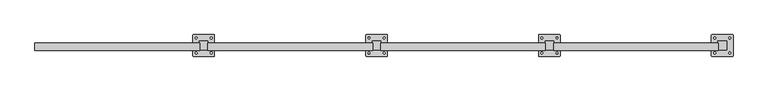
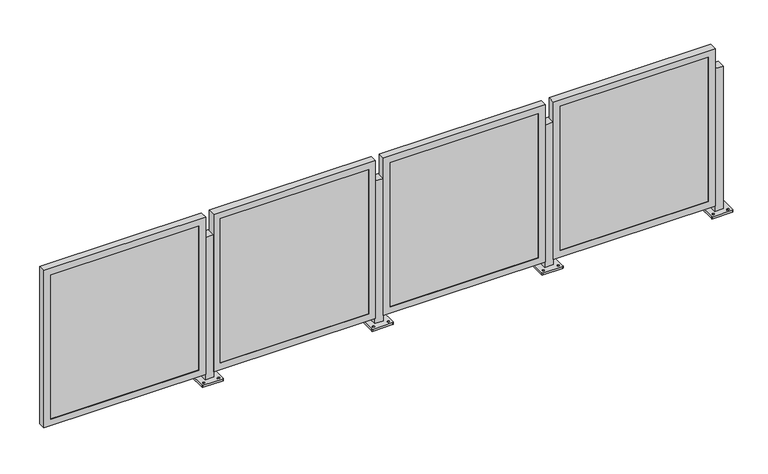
"""IFC4 building model written with IfcOpenShell, lengths in millimetres: railing geometry, Railing - Amico Architectural - Perforated Railing - Apex04."""

from ifc_helpers import new_model, si_unit, frame, origin, place, context, project, spatial, polyline, circle_curve, outline, extrude, faceted_brep, source, transform, mapped, element, save
from ifc_brep_helpers import plane_surface, cylinder_surface, revolved_surface, advanced_brep


def railing_63da7288(model_context):
    return source(origin(), model_context, "Body", "SolidModel", [
        advanced_brep(
        [(-3170.771202, 4857.370021, 914.4), (-3170.771202, 4806.570021, 914.4), (-3119.971202, 4806.570021, 914.4), (-3119.971202, 4857.370021, 914.4), (-3208.8712022, 4771.645062, 0.0), (-3208.8712022, 4892.29498, 0.0), (-3205.696174, 4895.4700081, 0.0), (-3085.04623, 4895.4700081, 0.0), (-3081.8712019, 4892.29498, 0.0), (-3081.8712019, 4771.645062, 0.0), (-3085.04623, 4768.4700339, 0.0), (-3205.696174, 4768.4700339, 0.0), (-3189.8211896, 4781.9637664, 0.0), (-3189.8211896, 4793.0762788, 0.0), (-3189.8212005, 4870.8637707, 0.0), (-3189.8212005, 4881.9762523, 0.0), (-3100.9211886, 4781.9637679, 0.0), (-3100.9211886, 4793.0762786, 0.0), (-3100.9211995, 4870.8637723, 0.0), (-3100.9211995, 4881.9762521, 0.0), (-3170.771202, 4857.370021, 12.7), (-3170.771202, 4806.570021, 12.7), (-3119.971202, 4806.570021, 12.7), (-3119.971202, 4857.370021, 12.7), (-3208.8712022, 4771.645062, 12.7), (-3205.696174, 4768.4700339, 12.7), (-3085.04623, 4768.4700339, 12.7), (-3081.8712019, 4771.645062, 12.7), (-3081.8712019, 4892.29498, 12.7), (-3085.04623, 4895.4700081, 12.7), (-3205.696174, 4895.4700081, 12.7), (-3208.8712022, 4892.29498, 12.7), (-3189.8211896, 4781.9637664, 12.7), (-3189.8211896, 4793.0762788, 12.7), (-3189.8212005, 4870.8637707, 12.7), (-3189.8212005, 4881.9762523, 12.7), (-3100.9211886, 4781.9637679, 12.7), (-3100.9211886, 4793.0762786, 12.7), (-3100.9211995, 4870.8637723, 12.7), (-3100.9211995, 4881.9762521, 12.7)],
        [
            (0, 1),
            (1, 2),
            (2, 3),
            (3, 0),
            (4, 5),
            (5, 6, circle_curve(frame((-3205.696174, 4892.29498, 0.0), z_axis=(0.0, 0.0, -1.0), x_axis=(0.0, 1.0, 0.0)), 3.1750282)),
            (6, 7),
            (7, 8, circle_curve(frame((-3085.04623, 4892.29498, 0.0), z_axis=(0.0, 0.0, -1.0), x_axis=(0.0, 1.0, 0.0)), 3.1750282)),
            (8, 9),
            (9, 10, circle_curve(frame((-3085.04623, 4771.645062, 0.0), z_axis=(0.0, 0.0, -1.0), x_axis=(0.0, 1.0, 0.0)), 3.1750282)),
            (10, 11),
            (11, 4, circle_curve(frame((-3205.696174, 4771.645062, 0.0), z_axis=(0.0, 0.0, -1.0), x_axis=(0.0, 1.0, 0.0)), 3.1750282)),
            (12, 13, circle_curve(frame((-3189.8211896, 4787.5200226, 0.0), z_axis=(0.0, 0.0, 1.0), x_axis=(0.0, 1.0, 0.0)), 5.5562562)),
            (13, 12, circle_curve(frame((-3189.8211896, 4787.5200226, 0.0), z_axis=(0.0, 0.0, 1.0), x_axis=(0.0, 1.0, 0.0)), 5.5562562)),
            (14, 15, circle_curve(frame((-3189.8212005, 4876.4200115, 0.0), z_axis=(0.0, 0.0, 1.0), x_axis=(0.0, 1.0, 0.0)), 5.5562408)),
            (15, 14, circle_curve(frame((-3189.8212005, 4876.4200115, 0.0), z_axis=(0.0, 0.0, 1.0), x_axis=(0.0, 1.0, 0.0)), 5.5562408)),
            (16, 17, circle_curve(frame((-3100.9211886, 4787.5200232, 0.0), z_axis=(0.0, 0.0, 1.0), x_axis=(0.0, 1.0, 0.0)), 5.5562553)),
            (17, 16, circle_curve(frame((-3100.9211886, 4787.5200232, 0.0), z_axis=(0.0, 0.0, 1.0), x_axis=(0.0, 1.0, 0.0)), 5.5562553)),
            (18, 19, circle_curve(frame((-3100.9211995, 4876.4200122, 0.0), z_axis=(0.0, 0.0, 1.0), x_axis=(0.0, 1.0, 0.0)), 5.5562399)),
            (19, 18, circle_curve(frame((-3100.9211995, 4876.4200122, 0.0), z_axis=(0.0, 0.0, 1.0), x_axis=(0.0, 1.0, 0.0)), 5.5562399)),
            (0, 20),
            (20, 21),
            (21, 1),
            (21, 22),
            (22, 2),
            (22, 23),
            (23, 3),
            (23, 20),
            (24, 25, circle_curve(frame((-3205.696174, 4771.645062, 12.7), z_axis=(0.0, 0.0, 1.0), x_axis=(0.0, 1.0, 0.0)), 3.1750282)),
            (25, 26),
            (26, 27, circle_curve(frame((-3085.04623, 4771.645062, 12.7), z_axis=(0.0, 0.0, 1.0), x_axis=(0.0, 1.0, 0.0)), 3.1750282)),
            (27, 28),
            (28, 29, circle_curve(frame((-3085.04623, 4892.29498, 12.7), z_axis=(0.0, 0.0, 1.0), x_axis=(0.0, 1.0, 0.0)), 3.1750282)),
            (29, 30),
            (30, 31, circle_curve(frame((-3205.696174, 4892.29498, 12.7), z_axis=(0.0, 0.0, 1.0), x_axis=(0.0, 1.0, 0.0)), 3.1750282)),
            (31, 24),
            (32, 33, circle_curve(frame((-3189.8211896, 4787.5200226, 12.7), z_axis=(0.0, 0.0, -1.0), x_axis=(0.0, 1.0, 0.0)), 5.5562562)),
            (33, 32, circle_curve(frame((-3189.8211896, 4787.5200226, 12.7), z_axis=(0.0, 0.0, -1.0), x_axis=(0.0, 1.0, 0.0)), 5.5562562)),
            (34, 35, circle_curve(frame((-3189.8212005, 4876.4200115, 12.7), z_axis=(0.0, 0.0, -1.0), x_axis=(0.0, 1.0, 0.0)), 5.5562408)),
            (35, 34, circle_curve(frame((-3189.8212005, 4876.4200115, 12.7), z_axis=(0.0, 0.0, -1.0), x_axis=(0.0, 1.0, 0.0)), 5.5562408)),
            (36, 37, circle_curve(frame((-3100.9211886, 4787.5200232, 12.7), z_axis=(0.0, 0.0, -1.0), x_axis=(0.0, 1.0, 0.0)), 5.5562553)),
            (37, 36, circle_curve(frame((-3100.9211886, 4787.5200232, 12.7), z_axis=(0.0, 0.0, -1.0), x_axis=(0.0, 1.0, 0.0)), 5.5562553)),
            (38, 39, circle_curve(frame((-3100.9211995, 4876.4200122, 12.7), z_axis=(0.0, 0.0, -1.0), x_axis=(0.0, 1.0, 0.0)), 5.5562399)),
            (39, 38, circle_curve(frame((-3100.9211995, 4876.4200122, 12.7), z_axis=(0.0, 0.0, -1.0), x_axis=(0.0, 1.0, 0.0)), 5.5562399)),
            (24, 4),
            (11, 25),
            (10, 26),
            (9, 27),
            (8, 28),
            (7, 29),
            (6, 30),
            (5, 31),
            (32, 12),
            (13, 33),
            (34, 14),
            (15, 35),
            (36, 16),
            (17, 37),
            (38, 18),
            (19, 39),
        ],
        [
            plane_surface(frame((-3170.771202, 4806.570021, 914.4), z_axis=(0.0, 0.0, 1.0), x_axis=(0.0, -1.0, 0.0))),
            plane_surface(frame((-3170.771202, 4806.570021, 0.0), z_axis=(0.0, 0.0, -1.0), x_axis=(0.0, 1.0, 0.0))),
            plane_surface(frame((-3170.771202, 4857.370021, 914.4), z_axis=(-1.0, 0.0, 0.0), x_axis=(0.0, 0.0, -1.0))),
            plane_surface(frame((-3170.771202, 4806.570021, 914.4), z_axis=(0.0, -1.0, 0.0), x_axis=(0.0, 0.0, -1.0))),
            plane_surface(frame((-3119.971202, 4806.570021, 914.4), z_axis=(1.0, 0.0, 0.0), x_axis=(0.0, 0.0, -1.0))),
            plane_surface(frame((-3119.971202, 4857.370021, 914.4), z_axis=(0.0, 1.0, 0.0), x_axis=(0.0, 0.0, -1.0))),
            plane_surface(frame((-3205.696174, 4774.8200902, 12.7), z_axis=(0.0, 0.0, 1.0), x_axis=(-1.0, 0.0, 0.0))),
            cylinder_surface(frame((-3205.696174, 4771.645062, 0.0), z_axis=(0.0, 0.0, 1.0), x_axis=(0.0, 1.0, 0.0)), 3.1750282),
            plane_surface(frame((-3205.696174, 4768.4700339, 12.7), z_axis=(1.1945386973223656e-12, -1.0, 0.0), x_axis=(0.0, 0.0, -1.0))),
            cylinder_surface(frame((-3085.04623, 4771.645062, 0.0), z_axis=(0.0, 0.0, 1.0), x_axis=(0.0, 1.0, 0.0)), 3.1750282),
            plane_surface(frame((-3081.8712019, 4771.645062, 12.7), z_axis=(1.0, 0.0, 0.0), x_axis=(0.0, 0.0, -1.0))),
            cylinder_surface(frame((-3085.04623, 4892.29498, 0.0), z_axis=(0.0, 0.0, 1.0), x_axis=(0.0, 1.0, 0.0)), 3.1750282),
            plane_surface(frame((-3085.04623, 4895.4700081, 12.7), z_axis=(-1.1946088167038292e-12, 1.0, 0.0), x_axis=(0.0, 0.0, -1.0))),
            cylinder_surface(frame((-3205.696174, 4892.29498, 0.0), z_axis=(0.0, 0.0, 1.0), x_axis=(0.0, 1.0, 0.0)), 3.1750282),
            plane_surface(frame((-3208.8712022, 4892.29498, 12.7), z_axis=(-1.0, 0.0, 0.0), x_axis=(0.0, 0.0, -1.0))),
            revolved_surface(polyline([(-3189.8211896, 4793.076278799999, 0.0), (-3189.8211896, 4793.076278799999, 12.7)]), (-3189.8211896, 4787.5200226, 0.0), (0.0, 0.0, -1.0)),
            revolved_surface(polyline([(-3189.8212005, 4881.9762523, 0.0), (-3189.8212005, 4881.9762523, 12.7)]), (-3189.8212005, 4876.4200115, 0.0), (0.0, 0.0, -1.0)),
            revolved_surface(polyline([(-3100.9211886, 4793.0762785, 0.0), (-3100.9211886, 4793.0762785, 12.7)]), (-3100.9211886, 4787.5200232, 0.0), (0.0, 0.0, -1.0)),
            revolved_surface(polyline([(-3100.9211995, 4881.9762521, 0.0), (-3100.9211995, 4881.9762521, 12.7)]), (-3100.9211995, 4876.4200122, 0.0), (0.0, 0.0, -1.0)),
        ],
        [
            (0, [[1, 2, 3, 4]]),
            (1, [[5, 6, 7, 8, 9, 10, 11, 12], [13, 14], [15, 16], [17, 18], [19, 20]]),
            (2, [[-1, 21, 22, 23]]),
            (3, [[-2, -23, 24, 25]]),
            (4, [[-3, -25, 26, 27]]),
            (5, [[-4, -27, 28, -21]]),
            (6, [[29, 30, 31, 32, 33, 34, 35, 36], [-22, -28, -26, -24], [37, 38], [39, 40], [41, 42], [43, 44]]),
            (7, [[-29, 45, -12, 46]]),
            (8, [[-30, -46, -11, 47]]),
            (9, [[-31, -47, -10, 48]]),
            (10, [[-32, -48, -9, 49]]),
            (11, [[-33, -49, -8, 50]]),
            (12, [[-34, -50, -7, 51]]),
            (13, [[-35, -51, -6, 52]]),
            (14, [[-36, -52, -5, -45]]),
            (15, [[-37, 53, -14, 54]]),
            (15, [[-38, -54, -13, -53]]),
            (16, [[-39, 55, -16, 56]]),
            (16, [[-40, -56, -15, -55]]),
            (17, [[-41, 57, -18, 58]]),
            (17, [[-42, -58, -17, -57]]),
            (18, [[-43, 59, -20, 60]]),
            (18, [[-44, -60, -19, -59]]),
        ],
    ),
        faceted_brep([(-4137.1756554, 4803.826821, 47.625), (-3168.8006554, 4803.826821, 47.625), (-3168.8006554, 4803.826821, 1044.575), (-4137.1756554, 4803.826821, 1044.575), (-4095.9006554, 4803.826821, 1003.3), (-3210.0756554, 4803.826821, 1003.3), (-3210.0756554, 4803.826821, 88.9), (-4095.9006554, 4803.826821, 88.9), (-4095.9006554, 4806.570021, 1003.3), (-4095.9006554, 4806.570021, 88.9), (-4137.1756554, 4847.7001175, 1044.575), (-4137.1756554, 4847.7001175, 47.625), (-4134.0006554, 4847.7001175, 1041.4), (-4134.0006554, 4806.570021, 1041.4), (-4134.0006554, 4806.570021, 50.8), (-4134.0006554, 4847.7001175, 50.8), (-3210.0756554, 4806.570021, 88.9), (-3168.8006554, 4847.7001175, 47.625), (-3171.9756554, 4806.570021, 50.8), (-3171.9756554, 4847.7001175, 50.8), (-3210.0756554, 4806.570021, 1003.3), (-3168.8006554, 4847.7001175, 1044.575), (-3171.9756554, 4806.570021, 1041.4), (-3171.9756554, 4847.7001175, 1041.4)], [[[0, 1, 2, 3], [4, 5, 6, 7]], [[8, 4, 7, 9]], [[3, 10, 11, 0]], [[12, 13, 14, 15]], [[9, 7, 6, 16]], [[0, 11, 17, 1]], [[15, 14, 18, 19]], [[16, 6, 5, 20]], [[1, 17, 21, 2]], [[19, 18, 22, 23]], [[20, 5, 4, 8]], [[10, 21, 17, 11], [15, 19, 23, 12]], [[2, 21, 10, 3]], [[13, 22, 18, 14], [9, 16, 20, 8]], [[23, 22, 13, 12]]]),
        extrude(outline(polyline([(-4134.0006554, 4816.095021), (-3171.9756554, 4816.095021), (-3171.9756554, 4806.570021), (-4134.0006554, 4806.570021), (-4134.0006554, 4816.095021)])), frame((0.0, 0.0, 50.8), z_axis=(0.0, 0.0, 1.0), x_axis=(1.0, 0.0, 0.0)), (0.0, 0.0, 1.0), 990.6),
        advanced_brep(
        [(-4186.771202, 4857.370021, 914.4), (-4186.771202, 4806.570021, 914.4), (-4135.971202, 4806.570021, 914.4), (-4135.971202, 4857.370021, 914.4), (-4224.8712022, 4771.645062, 0.0), (-4224.8712022, 4892.29498, 0.0), (-4221.696174, 4895.4700081, 0.0), (-4101.04623, 4895.4700081, 0.0), (-4097.8712019, 4892.29498, 0.0), (-4097.8712019, 4771.645062, 0.0), (-4101.04623, 4768.4700339, 0.0), (-4221.696174, 4768.4700339, 0.0), (-4205.8211896, 4781.9637664, 0.0), (-4205.8211896, 4793.0762788, 0.0), (-4205.8212005, 4870.8637707, 0.0), (-4205.8212005, 4881.9762523, 0.0), (-4116.9211886, 4781.9637679, 0.0), (-4116.9211886, 4793.0762786, 0.0), (-4116.9211995, 4870.8637723, 0.0), (-4116.9211995, 4881.9762521, 0.0), (-4186.771202, 4857.370021, 12.7), (-4186.771202, 4806.570021, 12.7), (-4135.971202, 4806.570021, 12.7), (-4135.971202, 4857.370021, 12.7), (-4224.8712022, 4771.645062, 12.7), (-4221.696174, 4768.4700339, 12.7), (-4101.04623, 4768.4700339, 12.7), (-4097.8712019, 4771.645062, 12.7), (-4097.8712019, 4892.29498, 12.7), (-4101.04623, 4895.4700081, 12.7), (-4221.696174, 4895.4700081, 12.7), (-4224.8712022, 4892.29498, 12.7), (-4205.8211896, 4781.9637664, 12.7), (-4205.8211896, 4793.0762788, 12.7), (-4205.8212005, 4870.8637707, 12.7), (-4205.8212005, 4881.9762523, 12.7), (-4116.9211886, 4781.9637679, 12.7), (-4116.9211886, 4793.0762786, 12.7), (-4116.9211995, 4870.8637723, 12.7), (-4116.9211995, 4881.9762521, 12.7)],
        [
            (0, 1),
            (1, 2),
            (2, 3),
            (3, 0),
            (4, 5),
            (5, 6, circle_curve(frame((-4221.696174, 4892.29498, 0.0), z_axis=(0.0, 0.0, -1.0), x_axis=(0.0, 1.0, 0.0)), 3.1750282)),
            (6, 7),
            (7, 8, circle_curve(frame((-4101.04623, 4892.29498, 0.0), z_axis=(0.0, 0.0, -1.0), x_axis=(0.0, 1.0, 0.0)), 3.1750282)),
            (8, 9),
            (9, 10, circle_curve(frame((-4101.04623, 4771.645062, 0.0), z_axis=(0.0, 0.0, -1.0), x_axis=(0.0, 1.0, 0.0)), 3.1750282)),
            (10, 11),
            (11, 4, circle_curve(frame((-4221.696174, 4771.645062, 0.0), z_axis=(0.0, 0.0, -1.0), x_axis=(0.0, 1.0, 0.0)), 3.1750282)),
            (12, 13, circle_curve(frame((-4205.8211896, 4787.5200226, 0.0), z_axis=(0.0, 0.0, 1.0), x_axis=(0.0, 1.0, 0.0)), 5.5562562)),
            (13, 12, circle_curve(frame((-4205.8211896, 4787.5200226, 0.0), z_axis=(0.0, 0.0, 1.0), x_axis=(0.0, 1.0, 0.0)), 5.5562562)),
            (14, 15, circle_curve(frame((-4205.8212005, 4876.4200115, 0.0), z_axis=(0.0, 0.0, 1.0), x_axis=(0.0, 1.0, 0.0)), 5.5562408)),
            (15, 14, circle_curve(frame((-4205.8212005, 4876.4200115, 0.0), z_axis=(0.0, 0.0, 1.0), x_axis=(0.0, 1.0, 0.0)), 5.5562408)),
            (16, 17, circle_curve(frame((-4116.9211886, 4787.5200232, 0.0), z_axis=(0.0, 0.0, 1.0), x_axis=(0.0, 1.0, 0.0)), 5.5562553)),
            (17, 16, circle_curve(frame((-4116.9211886, 4787.5200232, 0.0), z_axis=(0.0, 0.0, 1.0), x_axis=(0.0, 1.0, 0.0)), 5.5562553)),
            (18, 19, circle_curve(frame((-4116.9211995, 4876.4200122, 0.0), z_axis=(0.0, 0.0, 1.0), x_axis=(0.0, 1.0, 0.0)), 5.5562399)),
            (19, 18, circle_curve(frame((-4116.9211995, 4876.4200122, 0.0), z_axis=(0.0, 0.0, 1.0), x_axis=(0.0, 1.0, 0.0)), 5.5562399)),
            (0, 20),
            (20, 21),
            (21, 1),
            (21, 22),
            (22, 2),
            (22, 23),
            (23, 3),
            (23, 20),
            (24, 25, circle_curve(frame((-4221.696174, 4771.645062, 12.7), z_axis=(0.0, 0.0, 1.0), x_axis=(0.0, 1.0, 0.0)), 3.1750282)),
            (25, 26),
            (26, 27, circle_curve(frame((-4101.04623, 4771.645062, 12.7), z_axis=(0.0, 0.0, 1.0), x_axis=(0.0, 1.0, 0.0)), 3.1750282)),
            (27, 28),
            (28, 29, circle_curve(frame((-4101.04623, 4892.29498, 12.7), z_axis=(0.0, 0.0, 1.0), x_axis=(0.0, 1.0, 0.0)), 3.1750282)),
            (29, 30),
            (30, 31, circle_curve(frame((-4221.696174, 4892.29498, 12.7), z_axis=(0.0, 0.0, 1.0), x_axis=(0.0, 1.0, 0.0)), 3.1750282)),
            (31, 24),
            (32, 33, circle_curve(frame((-4205.8211896, 4787.5200226, 12.7), z_axis=(0.0, 0.0, -1.0), x_axis=(0.0, 1.0, 0.0)), 5.5562562)),
            (33, 32, circle_curve(frame((-4205.8211896, 4787.5200226, 12.7), z_axis=(0.0, 0.0, -1.0), x_axis=(0.0, 1.0, 0.0)), 5.5562562)),
            (34, 35, circle_curve(frame((-4205.8212005, 4876.4200115, 12.7), z_axis=(0.0, 0.0, -1.0), x_axis=(0.0, 1.0, 0.0)), 5.5562408)),
            (35, 34, circle_curve(frame((-4205.8212005, 4876.4200115, 12.7), z_axis=(0.0, 0.0, -1.0), x_axis=(0.0, 1.0, 0.0)), 5.5562408)),
            (36, 37, circle_curve(frame((-4116.9211886, 4787.5200232, 12.7), z_axis=(0.0, 0.0, -1.0), x_axis=(0.0, 1.0, 0.0)), 5.5562553)),
            (37, 36, circle_curve(frame((-4116.9211886, 4787.5200232, 12.7), z_axis=(0.0, 0.0, -1.0), x_axis=(0.0, 1.0, 0.0)), 5.5562553)),
            (38, 39, circle_curve(frame((-4116.9211995, 4876.4200122, 12.7), z_axis=(0.0, 0.0, -1.0), x_axis=(0.0, 1.0, 0.0)), 5.5562399)),
            (39, 38, circle_curve(frame((-4116.9211995, 4876.4200122, 12.7), z_axis=(0.0, 0.0, -1.0), x_axis=(0.0, 1.0, 0.0)), 5.5562399)),
            (24, 4),
            (11, 25),
            (10, 26),
            (9, 27),
            (8, 28),
            (7, 29),
            (6, 30),
            (5, 31),
            (32, 12),
            (13, 33),
            (34, 14),
            (15, 35),
            (36, 16),
            (17, 37),
            (38, 18),
            (19, 39),
        ],
        [
            plane_surface(frame((-4186.771202, 4806.570021, 914.4), z_axis=(0.0, 0.0, 1.0), x_axis=(0.0, -1.0, 0.0))),
            plane_surface(frame((-4186.771202, 4806.570021, 0.0), z_axis=(0.0, 0.0, -1.0), x_axis=(0.0, 1.0, 0.0))),
            plane_surface(frame((-4186.771202, 4857.370021, 914.4), z_axis=(-1.0, 0.0, 0.0), x_axis=(0.0, 0.0, -1.0))),
            plane_surface(frame((-4186.771202, 4806.570021, 914.4), z_axis=(0.0, -1.0, 0.0), x_axis=(0.0, 0.0, -1.0))),
            plane_surface(frame((-4135.971202, 4806.570021, 914.4), z_axis=(1.0, 0.0, 0.0), x_axis=(0.0, 0.0, -1.0))),
            plane_surface(frame((-4135.971202, 4857.370021, 914.4), z_axis=(0.0, 1.0, 0.0), x_axis=(0.0, 0.0, -1.0))),
            plane_surface(frame((-4221.696174, 4774.8200902, 12.7), z_axis=(0.0, 0.0, 1.0), x_axis=(-1.0, 0.0, 0.0))),
            cylinder_surface(frame((-4221.696174, 4771.645062, 0.0), z_axis=(0.0, 0.0, 1.0), x_axis=(0.0, 1.0, 0.0)), 3.1750282),
            plane_surface(frame((-4221.696174, 4768.4700339, 12.7), z_axis=(1.1945386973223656e-12, -1.0, 0.0), x_axis=(0.0, 0.0, -1.0))),
            cylinder_surface(frame((-4101.04623, 4771.645062, 0.0), z_axis=(0.0, 0.0, 1.0), x_axis=(0.0, 1.0, 0.0)), 3.1750282),
            plane_surface(frame((-4097.8712019, 4771.645062, 12.7), z_axis=(1.0, 0.0, 0.0), x_axis=(0.0, 0.0, -1.0))),
            cylinder_surface(frame((-4101.04623, 4892.29498, 0.0), z_axis=(0.0, 0.0, 1.0), x_axis=(0.0, 1.0, 0.0)), 3.1750282),
            plane_surface(frame((-4101.04623, 4895.4700081, 12.7), z_axis=(-1.1946088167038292e-12, 1.0, 0.0), x_axis=(0.0, 0.0, -1.0))),
            cylinder_surface(frame((-4221.696174, 4892.29498, 0.0), z_axis=(0.0, 0.0, 1.0), x_axis=(0.0, 1.0, 0.0)), 3.1750282),
            plane_surface(frame((-4224.8712022, 4892.29498, 12.7), z_axis=(-1.0, 0.0, 0.0), x_axis=(0.0, 0.0, -1.0))),
            revolved_surface(polyline([(-4205.8211896, 4793.076278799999, 0.0), (-4205.8211896, 4793.076278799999, 12.7)]), (-4205.8211896, 4787.5200226, 0.0), (0.0, 0.0, -1.0)),
            revolved_surface(polyline([(-4205.8212005, 4881.9762523, 0.0), (-4205.8212005, 4881.9762523, 12.7)]), (-4205.8212005, 4876.4200115, 0.0), (0.0, 0.0, -1.0)),
            revolved_surface(polyline([(-4116.9211886, 4793.0762785, 0.0), (-4116.9211886, 4793.0762785, 12.7)]), (-4116.9211886, 4787.5200232, 0.0), (0.0, 0.0, -1.0)),
            revolved_surface(polyline([(-4116.9211995, 4881.9762521, 0.0), (-4116.9211995, 4881.9762521, 12.7)]), (-4116.9211995, 4876.4200122, 0.0), (0.0, 0.0, -1.0)),
        ],
        [
            (0, [[1, 2, 3, 4]]),
            (1, [[5, 6, 7, 8, 9, 10, 11, 12], [13, 14], [15, 16], [17, 18], [19, 20]]),
            (2, [[-1, 21, 22, 23]]),
            (3, [[-2, -23, 24, 25]]),
            (4, [[-3, -25, 26, 27]]),
            (5, [[-4, -27, 28, -21]]),
            (6, [[29, 30, 31, 32, 33, 34, 35, 36], [-22, -28, -26, -24], [37, 38], [39, 40], [41, 42], [43, 44]]),
            (7, [[-29, 45, -12, 46]]),
            (8, [[-30, -46, -11, 47]]),
            (9, [[-31, -47, -10, 48]]),
            (10, [[-32, -48, -9, 49]]),
            (11, [[-33, -49, -8, 50]]),
            (12, [[-34, -50, -7, 51]]),
            (13, [[-35, -51, -6, 52]]),
            (14, [[-36, -52, -5, -45]]),
            (15, [[-37, 53, -14, 54]]),
            (15, [[-38, -54, -13, -53]]),
            (16, [[-39, 55, -16, 56]]),
            (16, [[-40, -56, -15, -55]]),
            (17, [[-41, 57, -18, 58]]),
            (17, [[-42, -58, -17, -57]]),
            (18, [[-43, 59, -20, 60]]),
            (18, [[-44, -60, -19, -59]]),
        ],
    ),
        faceted_brep([(-5153.1756554, 4803.826821, 47.625), (-4184.8006554, 4803.826821, 47.625), (-4184.8006554, 4803.826821, 1044.575), (-5153.1756554, 4803.826821, 1044.575), (-5111.9006554, 4803.826821, 1003.3), (-4226.0756554, 4803.826821, 1003.3), (-4226.0756554, 4803.826821, 88.9), (-5111.9006554, 4803.826821, 88.9), (-5111.9006554, 4806.570021, 1003.3), (-5111.9006554, 4806.570021, 88.9), (-5153.1756554, 4847.7001175, 1044.575), (-5153.1756554, 4847.7001175, 47.625), (-5150.0006554, 4847.7001175, 1041.4), (-5150.0006554, 4806.570021, 1041.4), (-5150.0006554, 4806.570021, 50.8), (-5150.0006554, 4847.7001175, 50.8), (-4226.0756554, 4806.570021, 88.9), (-4184.8006554, 4847.7001175, 47.625), (-4187.9756554, 4806.570021, 50.8), (-4187.9756554, 4847.7001175, 50.8), (-4226.0756554, 4806.570021, 1003.3), (-4184.8006554, 4847.7001175, 1044.575), (-4187.9756554, 4806.570021, 1041.4), (-4187.9756554, 4847.7001175, 1041.4)], [[[0, 1, 2, 3], [4, 5, 6, 7]], [[8, 4, 7, 9]], [[3, 10, 11, 0]], [[12, 13, 14, 15]], [[9, 7, 6, 16]], [[0, 11, 17, 1]], [[15, 14, 18, 19]], [[16, 6, 5, 20]], [[1, 17, 21, 2]], [[19, 18, 22, 23]], [[20, 5, 4, 8]], [[10, 21, 17, 11], [15, 19, 23, 12]], [[2, 21, 10, 3]], [[13, 22, 18, 14], [9, 16, 20, 8]], [[23, 22, 13, 12]]]),
        extrude(outline(polyline([(-5150.0006554, 4816.095021), (-4187.9756554, 4816.095021), (-4187.9756554, 4806.570021), (-5150.0006554, 4806.570021), (-5150.0006554, 4816.095021)])), frame((0.0, 0.0, 50.8), z_axis=(0.0, 0.0, 1.0), x_axis=(1.0, 0.0, 0.0)), (0.0, 0.0, 1.0), 990.6),
        advanced_brep(
        [(-5202.771202, 4857.370021, 914.4), (-5202.771202, 4806.570021, 914.4), (-5151.971202, 4806.570021, 914.4), (-5151.971202, 4857.370021, 914.4), (-5240.8712022, 4771.645062, 0.0), (-5240.8712022, 4892.29498, 0.0), (-5237.696174, 4895.4700081, 0.0), (-5117.04623, 4895.4700081, 0.0), (-5113.8712019, 4892.29498, 0.0), (-5113.8712019, 4771.645062, 0.0), (-5117.04623, 4768.4700339, 0.0), (-5237.696174, 4768.4700339, 0.0), (-5221.8211896, 4781.9637664, 0.0), (-5221.8211896, 4793.0762788, 0.0), (-5221.8212005, 4870.8637707, 0.0), (-5221.8212005, 4881.9762523, 0.0), (-5132.9211886, 4781.9637679, 0.0), (-5132.9211886, 4793.0762786, 0.0), (-5132.9211995, 4870.8637723, 0.0), (-5132.9211995, 4881.9762521, 0.0), (-5202.771202, 4857.370021, 12.7), (-5202.771202, 4806.570021, 12.7), (-5151.971202, 4806.570021, 12.7), (-5151.971202, 4857.370021, 12.7), (-5240.8712022, 4771.645062, 12.7), (-5237.696174, 4768.4700339, 12.7), (-5117.04623, 4768.4700339, 12.7), (-5113.8712019, 4771.645062, 12.7), (-5113.8712019, 4892.29498, 12.7), (-5117.04623, 4895.4700081, 12.7), (-5237.696174, 4895.4700081, 12.7), (-5240.8712022, 4892.29498, 12.7), (-5221.8211896, 4781.9637664, 12.7), (-5221.8211896, 4793.0762788, 12.7), (-5221.8212005, 4870.8637707, 12.7), (-5221.8212005, 4881.9762523, 12.7), (-5132.9211886, 4781.9637679, 12.7), (-5132.9211886, 4793.0762786, 12.7), (-5132.9211995, 4870.8637723, 12.7), (-5132.9211995, 4881.9762521, 12.7)],
        [
            (0, 1),
            (1, 2),
            (2, 3),
            (3, 0),
            (4, 5),
            (5, 6, circle_curve(frame((-5237.696174, 4892.29498, 0.0), z_axis=(0.0, 0.0, -1.0), x_axis=(0.0, 1.0, 0.0)), 3.1750282)),
            (6, 7),
            (7, 8, circle_curve(frame((-5117.04623, 4892.29498, 0.0), z_axis=(0.0, 0.0, -1.0), x_axis=(0.0, 1.0, 0.0)), 3.1750282)),
            (8, 9),
            (9, 10, circle_curve(frame((-5117.04623, 4771.645062, 0.0), z_axis=(0.0, 0.0, -1.0), x_axis=(0.0, 1.0, 0.0)), 3.1750282)),
            (10, 11),
            (11, 4, circle_curve(frame((-5237.696174, 4771.645062, 0.0), z_axis=(0.0, 0.0, -1.0), x_axis=(0.0, 1.0, 0.0)), 3.1750282)),
            (12, 13, circle_curve(frame((-5221.8211896, 4787.5200226, 0.0), z_axis=(0.0, 0.0, 1.0), x_axis=(0.0, 1.0, 0.0)), 5.5562562)),
            (13, 12, circle_curve(frame((-5221.8211896, 4787.5200226, 0.0), z_axis=(0.0, 0.0, 1.0), x_axis=(0.0, 1.0, 0.0)), 5.5562562)),
            (14, 15, circle_curve(frame((-5221.8212005, 4876.4200115, 0.0), z_axis=(0.0, 0.0, 1.0), x_axis=(0.0, 1.0, 0.0)), 5.5562408)),
            (15, 14, circle_curve(frame((-5221.8212005, 4876.4200115, 0.0), z_axis=(0.0, 0.0, 1.0), x_axis=(0.0, 1.0, 0.0)), 5.5562408)),
            (16, 17, circle_curve(frame((-5132.9211886, 4787.5200232, 0.0), z_axis=(0.0, 0.0, 1.0), x_axis=(0.0, 1.0, 0.0)), 5.5562553)),
            (17, 16, circle_curve(frame((-5132.9211886, 4787.5200232, 0.0), z_axis=(0.0, 0.0, 1.0), x_axis=(0.0, 1.0, 0.0)), 5.5562553)),
            (18, 19, circle_curve(frame((-5132.9211995, 4876.4200122, 0.0), z_axis=(0.0, 0.0, 1.0), x_axis=(0.0, 1.0, 0.0)), 5.5562399)),
            (19, 18, circle_curve(frame((-5132.9211995, 4876.4200122, 0.0), z_axis=(0.0, 0.0, 1.0), x_axis=(0.0, 1.0, 0.0)), 5.5562399)),
            (0, 20),
            (20, 21),
            (21, 1),
            (21, 22),
            (22, 2),
            (22, 23),
            (23, 3),
            (23, 20),
            (24, 25, circle_curve(frame((-5237.696174, 4771.645062, 12.7), z_axis=(0.0, 0.0, 1.0), x_axis=(0.0, 1.0, 0.0)), 3.1750282)),
            (25, 26),
            (26, 27, circle_curve(frame((-5117.04623, 4771.645062, 12.7), z_axis=(0.0, 0.0, 1.0), x_axis=(0.0, 1.0, 0.0)), 3.1750282)),
            (27, 28),
            (28, 29, circle_curve(frame((-5117.04623, 4892.29498, 12.7), z_axis=(0.0, 0.0, 1.0), x_axis=(0.0, 1.0, 0.0)), 3.1750282)),
            (29, 30),
            (30, 31, circle_curve(frame((-5237.696174, 4892.29498, 12.7), z_axis=(0.0, 0.0, 1.0), x_axis=(0.0, 1.0, 0.0)), 3.1750282)),
            (31, 24),
            (32, 33, circle_curve(frame((-5221.8211896, 4787.5200226, 12.7), z_axis=(0.0, 0.0, -1.0), x_axis=(0.0, 1.0, 0.0)), 5.5562562)),
            (33, 32, circle_curve(frame((-5221.8211896, 4787.5200226, 12.7), z_axis=(0.0, 0.0, -1.0), x_axis=(0.0, 1.0, 0.0)), 5.5562562)),
            (34, 35, circle_curve(frame((-5221.8212005, 4876.4200115, 12.7), z_axis=(0.0, 0.0, -1.0), x_axis=(0.0, 1.0, 0.0)), 5.5562408)),
            (35, 34, circle_curve(frame((-5221.8212005, 4876.4200115, 12.7), z_axis=(0.0, 0.0, -1.0), x_axis=(0.0, 1.0, 0.0)), 5.5562408)),
            (36, 37, circle_curve(frame((-5132.9211886, 4787.5200232, 12.7), z_axis=(0.0, 0.0, -1.0), x_axis=(0.0, 1.0, 0.0)), 5.5562553)),
            (37, 36, circle_curve(frame((-5132.9211886, 4787.5200232, 12.7), z_axis=(0.0, 0.0, -1.0), x_axis=(0.0, 1.0, 0.0)), 5.5562553)),
            (38, 39, circle_curve(frame((-5132.9211995, 4876.4200122, 12.7), z_axis=(0.0, 0.0, -1.0), x_axis=(0.0, 1.0, 0.0)), 5.5562399)),
            (39, 38, circle_curve(frame((-5132.9211995, 4876.4200122, 12.7), z_axis=(0.0, 0.0, -1.0), x_axis=(0.0, 1.0, 0.0)), 5.5562399)),
            (24, 4),
            (11, 25),
            (10, 26),
            (9, 27),
            (8, 28),
            (7, 29),
            (6, 30),
            (5, 31),
            (32, 12),
            (13, 33),
            (34, 14),
            (15, 35),
            (36, 16),
            (17, 37),
            (38, 18),
            (19, 39),
        ],
        [
            plane_surface(frame((-5202.771202, 4806.570021, 914.4), z_axis=(0.0, 0.0, 1.0), x_axis=(0.0, -1.0, 0.0))),
            plane_surface(frame((-5202.771202, 4806.570021, 0.0), z_axis=(0.0, 0.0, -1.0), x_axis=(0.0, 1.0, 0.0))),
            plane_surface(frame((-5202.771202, 4857.370021, 914.4), z_axis=(-1.0, 0.0, 0.0), x_axis=(0.0, 0.0, -1.0))),
            plane_surface(frame((-5202.771202, 4806.570021, 914.4), z_axis=(0.0, -1.0, 0.0), x_axis=(0.0, 0.0, -1.0))),
            plane_surface(frame((-5151.971202, 4806.570021, 914.4), z_axis=(1.0, 0.0, 0.0), x_axis=(0.0, 0.0, -1.0))),
            plane_surface(frame((-5151.971202, 4857.370021, 914.4), z_axis=(0.0, 1.0, 0.0), x_axis=(0.0, 0.0, -1.0))),
            plane_surface(frame((-5237.696174, 4774.8200902, 12.7), z_axis=(0.0, 0.0, 1.0), x_axis=(-1.0, 0.0, 0.0))),
            cylinder_surface(frame((-5237.696174, 4771.645062, 0.0), z_axis=(0.0, 0.0, 1.0), x_axis=(0.0, 1.0, 0.0)), 3.1750282),
            plane_surface(frame((-5237.696174, 4768.4700339, 12.7), z_axis=(1.1945386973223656e-12, -1.0, 0.0), x_axis=(0.0, 0.0, -1.0))),
            cylinder_surface(frame((-5117.04623, 4771.645062, 0.0), z_axis=(0.0, 0.0, 1.0), x_axis=(0.0, 1.0, 0.0)), 3.1750282),
            plane_surface(frame((-5113.8712019, 4771.645062, 12.7), z_axis=(1.0, 0.0, 0.0), x_axis=(0.0, 0.0, -1.0))),
            cylinder_surface(frame((-5117.04623, 4892.29498, 0.0), z_axis=(0.0, 0.0, 1.0), x_axis=(0.0, 1.0, 0.0)), 3.1750282),
            plane_surface(frame((-5117.04623, 4895.4700081, 12.7), z_axis=(-1.1946088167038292e-12, 1.0, 0.0), x_axis=(0.0, 0.0, -1.0))),
            cylinder_surface(frame((-5237.696174, 4892.29498, 0.0), z_axis=(0.0, 0.0, 1.0), x_axis=(0.0, 1.0, 0.0)), 3.1750282),
            plane_surface(frame((-5240.8712022, 4892.29498, 12.7), z_axis=(-1.0, 0.0, 0.0), x_axis=(0.0, 0.0, -1.0))),
            revolved_surface(polyline([(-5221.8211896, 4793.076278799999, 0.0), (-5221.8211896, 4793.076278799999, 12.7)]), (-5221.8211896, 4787.5200226, 0.0), (0.0, 0.0, -1.0)),
            revolved_surface(polyline([(-5221.8212005, 4881.9762523, 0.0), (-5221.8212005, 4881.9762523, 12.7)]), (-5221.8212005, 4876.4200115, 0.0), (0.0, 0.0, -1.0)),
            revolved_surface(polyline([(-5132.9211886, 4793.0762785, 0.0), (-5132.9211886, 4793.0762785, 12.7)]), (-5132.9211886, 4787.5200232, 0.0), (0.0, 0.0, -1.0)),
            revolved_surface(polyline([(-5132.9211995, 4881.9762521, 0.0), (-5132.9211995, 4881.9762521, 12.7)]), (-5132.9211995, 4876.4200122, 0.0), (0.0, 0.0, -1.0)),
        ],
        [
            (0, [[1, 2, 3, 4]]),
            (1, [[5, 6, 7, 8, 9, 10, 11, 12], [13, 14], [15, 16], [17, 18], [19, 20]]),
            (2, [[-1, 21, 22, 23]]),
            (3, [[-2, -23, 24, 25]]),
            (4, [[-3, -25, 26, 27]]),
            (5, [[-4, -27, 28, -21]]),
            (6, [[29, 30, 31, 32, 33, 34, 35, 36], [-22, -28, -26, -24], [37, 38], [39, 40], [41, 42], [43, 44]]),
            (7, [[-29, 45, -12, 46]]),
            (8, [[-30, -46, -11, 47]]),
            (9, [[-31, -47, -10, 48]]),
            (10, [[-32, -48, -9, 49]]),
            (11, [[-33, -49, -8, 50]]),
            (12, [[-34, -50, -7, 51]]),
            (13, [[-35, -51, -6, 52]]),
            (14, [[-36, -52, -5, -45]]),
            (15, [[-37, 53, -14, 54]]),
            (15, [[-38, -54, -13, -53]]),
            (16, [[-39, 55, -16, 56]]),
            (16, [[-40, -56, -15, -55]]),
            (17, [[-41, 57, -18, 58]]),
            (17, [[-42, -58, -17, -57]]),
            (18, [[-43, 59, -20, 60]]),
            (18, [[-44, -60, -19, -59]]),
        ],
    ),
        faceted_brep([(-6169.1756554, 4803.826821, 47.625), (-5200.8006554, 4803.826821, 47.625), (-5200.8006554, 4803.826821, 1044.575), (-6169.1756554, 4803.826821, 1044.575), (-6127.9006554, 4803.826821, 1003.3), (-5242.0756554, 4803.826821, 1003.3), (-5242.0756554, 4803.826821, 88.9), (-6127.9006554, 4803.826821, 88.9), (-6127.9006554, 4806.570021, 1003.3), (-6127.9006554, 4806.570021, 88.9), (-6169.1756554, 4847.7001175, 1044.575), (-6169.1756554, 4847.7001175, 47.625), (-6166.0006554, 4847.7001175, 1041.4), (-6166.0006554, 4806.570021, 1041.4), (-6166.0006554, 4806.570021, 50.8), (-6166.0006554, 4847.7001175, 50.8), (-5242.0756554, 4806.570021, 88.9), (-5200.8006554, 4847.7001175, 47.625), (-5203.9756554, 4806.570021, 50.8), (-5203.9756554, 4847.7001175, 50.8), (-5242.0756554, 4806.570021, 1003.3), (-5200.8006554, 4847.7001175, 1044.575), (-5203.9756554, 4806.570021, 1041.4), (-5203.9756554, 4847.7001175, 1041.4)], [[[0, 1, 2, 3], [4, 5, 6, 7]], [[8, 4, 7, 9]], [[3, 10, 11, 0]], [[12, 13, 14, 15]], [[9, 7, 6, 16]], [[0, 11, 17, 1]], [[15, 14, 18, 19]], [[16, 6, 5, 20]], [[1, 17, 21, 2]], [[19, 18, 22, 23]], [[20, 5, 4, 8]], [[10, 21, 17, 11], [15, 19, 23, 12]], [[2, 21, 10, 3]], [[13, 22, 18, 14], [9, 16, 20, 8]], [[23, 22, 13, 12]]]),
        extrude(outline(polyline([(-6166.0006554, 4816.095021), (-5203.9756554, 4816.095021), (-5203.9756554, 4806.570021), (-6166.0006554, 4806.570021), (-6166.0006554, 4816.095021)])), frame((0.0, 0.0, 50.8), z_axis=(0.0, 0.0, 1.0), x_axis=(1.0, 0.0, 0.0)), (0.0, 0.0, 1.0), 990.6),
        advanced_brep(
        [(-6218.771202, 4857.370021, 914.4), (-6218.771202, 4806.570021, 914.4), (-6167.971202, 4806.570021, 914.4), (-6167.971202, 4857.370021, 914.4), (-6256.8712022, 4771.645062, 0.0), (-6256.8712022, 4892.29498, 0.0), (-6253.696174, 4895.4700081, 0.0), (-6133.04623, 4895.4700081, 0.0), (-6129.8712019, 4892.29498, 0.0), (-6129.8712019, 4771.645062, 0.0), (-6133.04623, 4768.4700339, 0.0), (-6253.696174, 4768.4700339, 0.0), (-6237.8211896, 4781.9637664, 0.0), (-6237.8211896, 4793.0762788, 0.0), (-6237.8212005, 4870.8637707, 0.0), (-6237.8212005, 4881.9762523, 0.0), (-6148.9211886, 4781.9637679, 0.0), (-6148.9211886, 4793.0762786, 0.0), (-6148.9211995, 4870.8637723, 0.0), (-6148.9211995, 4881.9762521, 0.0), (-6218.771202, 4857.370021, 12.7), (-6218.771202, 4806.570021, 12.7), (-6167.971202, 4806.570021, 12.7), (-6167.971202, 4857.370021, 12.7), (-6256.8712022, 4771.645062, 12.7), (-6253.696174, 4768.4700339, 12.7), (-6133.04623, 4768.4700339, 12.7), (-6129.8712019, 4771.645062, 12.7), (-6129.8712019, 4892.29498, 12.7), (-6133.04623, 4895.4700081, 12.7), (-6253.696174, 4895.4700081, 12.7), (-6256.8712022, 4892.29498, 12.7), (-6237.8211896, 4781.9637664, 12.7), (-6237.8211896, 4793.0762788, 12.7), (-6237.8212005, 4870.8637707, 12.7), (-6237.8212005, 4881.9762523, 12.7), (-6148.9211886, 4781.9637679, 12.7), (-6148.9211886, 4793.0762786, 12.7), (-6148.9211995, 4870.8637723, 12.7), (-6148.9211995, 4881.9762521, 12.7)],
        [
            (0, 1),
            (1, 2),
            (2, 3),
            (3, 0),
            (4, 5),
            (5, 6, circle_curve(frame((-6253.696174, 4892.29498, 0.0), z_axis=(0.0, 0.0, -1.0), x_axis=(0.0, 1.0, 0.0)), 3.1750282)),
            (6, 7),
            (7, 8, circle_curve(frame((-6133.04623, 4892.29498, 0.0), z_axis=(0.0, 0.0, -1.0), x_axis=(0.0, 1.0, 0.0)), 3.1750282)),
            (8, 9),
            (9, 10, circle_curve(frame((-6133.04623, 4771.645062, 0.0), z_axis=(0.0, 0.0, -1.0), x_axis=(0.0, 1.0, 0.0)), 3.1750282)),
            (10, 11),
            (11, 4, circle_curve(frame((-6253.696174, 4771.645062, 0.0), z_axis=(0.0, 0.0, -1.0), x_axis=(0.0, 1.0, 0.0)), 3.1750282)),
            (12, 13, circle_curve(frame((-6237.8211896, 4787.5200226, 0.0), z_axis=(0.0, 0.0, 1.0), x_axis=(0.0, 1.0, 0.0)), 5.5562562)),
            (13, 12, circle_curve(frame((-6237.8211896, 4787.5200226, 0.0), z_axis=(0.0, 0.0, 1.0), x_axis=(0.0, 1.0, 0.0)), 5.5562562)),
            (14, 15, circle_curve(frame((-6237.8212005, 4876.4200115, 0.0), z_axis=(0.0, 0.0, 1.0), x_axis=(0.0, 1.0, 0.0)), 5.5562408)),
            (15, 14, circle_curve(frame((-6237.8212005, 4876.4200115, 0.0), z_axis=(0.0, 0.0, 1.0), x_axis=(0.0, 1.0, 0.0)), 5.5562408)),
            (16, 17, circle_curve(frame((-6148.9211886, 4787.5200232, 0.0), z_axis=(0.0, 0.0, 1.0), x_axis=(0.0, 1.0, 0.0)), 5.5562553)),
            (17, 16, circle_curve(frame((-6148.9211886, 4787.5200232, 0.0), z_axis=(0.0, 0.0, 1.0), x_axis=(0.0, 1.0, 0.0)), 5.5562553)),
            (18, 19, circle_curve(frame((-6148.9211995, 4876.4200122, 0.0), z_axis=(0.0, 0.0, 1.0), x_axis=(0.0, 1.0, 0.0)), 5.5562399)),
            (19, 18, circle_curve(frame((-6148.9211995, 4876.4200122, 0.0), z_axis=(0.0, 0.0, 1.0), x_axis=(0.0, 1.0, 0.0)), 5.5562399)),
            (0, 20),
            (20, 21),
            (21, 1),
            (21, 22),
            (22, 2),
            (22, 23),
            (23, 3),
            (23, 20),
            (24, 25, circle_curve(frame((-6253.696174, 4771.645062, 12.7), z_axis=(0.0, 0.0, 1.0), x_axis=(0.0, 1.0, 0.0)), 3.1750282)),
            (25, 26),
            (26, 27, circle_curve(frame((-6133.04623, 4771.645062, 12.7), z_axis=(0.0, 0.0, 1.0), x_axis=(0.0, 1.0, 0.0)), 3.1750282)),
            (27, 28),
            (28, 29, circle_curve(frame((-6133.04623, 4892.29498, 12.7), z_axis=(0.0, 0.0, 1.0), x_axis=(0.0, 1.0, 0.0)), 3.1750282)),
            (29, 30),
            (30, 31, circle_curve(frame((-6253.696174, 4892.29498, 12.7), z_axis=(0.0, 0.0, 1.0), x_axis=(0.0, 1.0, 0.0)), 3.1750282)),
            (31, 24),
            (32, 33, circle_curve(frame((-6237.8211896, 4787.5200226, 12.7), z_axis=(0.0, 0.0, -1.0), x_axis=(0.0, 1.0, 0.0)), 5.5562562)),
            (33, 32, circle_curve(frame((-6237.8211896, 4787.5200226, 12.7), z_axis=(0.0, 0.0, -1.0), x_axis=(0.0, 1.0, 0.0)), 5.5562562)),
            (34, 35, circle_curve(frame((-6237.8212005, 4876.4200115, 12.7), z_axis=(0.0, 0.0, -1.0), x_axis=(0.0, 1.0, 0.0)), 5.5562408)),
            (35, 34, circle_curve(frame((-6237.8212005, 4876.4200115, 12.7), z_axis=(0.0, 0.0, -1.0), x_axis=(0.0, 1.0, 0.0)), 5.5562408)),
            (36, 37, circle_curve(frame((-6148.9211886, 4787.5200232, 12.7), z_axis=(0.0, 0.0, -1.0), x_axis=(0.0, 1.0, 0.0)), 5.5562553)),
            (37, 36, circle_curve(frame((-6148.9211886, 4787.5200232, 12.7), z_axis=(0.0, 0.0, -1.0), x_axis=(0.0, 1.0, 0.0)), 5.5562553)),
            (38, 39, circle_curve(frame((-6148.9211995, 4876.4200122, 12.7), z_axis=(0.0, 0.0, -1.0), x_axis=(0.0, 1.0, 0.0)), 5.5562399)),
            (39, 38, circle_curve(frame((-6148.9211995, 4876.4200122, 12.7), z_axis=(0.0, 0.0, -1.0), x_axis=(0.0, 1.0, 0.0)), 5.5562399)),
            (24, 4),
            (11, 25),
            (10, 26),
            (9, 27),
            (8, 28),
            (7, 29),
            (6, 30),
            (5, 31),
            (32, 12),
            (13, 33),
            (34, 14),
            (15, 35),
            (36, 16),
            (17, 37),
            (38, 18),
            (19, 39),
        ],
        [
            plane_surface(frame((-6218.771202, 4806.570021, 914.4), z_axis=(0.0, 0.0, 1.0), x_axis=(0.0, -1.0, 0.0))),
            plane_surface(frame((-6218.771202, 4806.570021, 0.0), z_axis=(0.0, 0.0, -1.0), x_axis=(0.0, 1.0, 0.0))),
            plane_surface(frame((-6218.771202, 4857.370021, 914.4), z_axis=(-1.0, 0.0, 0.0), x_axis=(0.0, 0.0, -1.0))),
            plane_surface(frame((-6218.771202, 4806.570021, 914.4), z_axis=(0.0, -1.0, 0.0), x_axis=(0.0, 0.0, -1.0))),
            plane_surface(frame((-6167.971202, 4806.570021, 914.4), z_axis=(1.0, 0.0, 0.0), x_axis=(0.0, 0.0, -1.0))),
            plane_surface(frame((-6167.971202, 4857.370021, 914.4), z_axis=(0.0, 1.0, 0.0), x_axis=(0.0, 0.0, -1.0))),
            plane_surface(frame((-6253.696174, 4774.8200902, 12.7), z_axis=(0.0, 0.0, 1.0), x_axis=(-1.0, 0.0, 0.0))),
            cylinder_surface(frame((-6253.696174, 4771.645062, 0.0), z_axis=(0.0, 0.0, 1.0), x_axis=(0.0, 1.0, 0.0)), 3.1750282),
            plane_surface(frame((-6253.696174, 4768.4700339, 12.7), z_axis=(1.1945386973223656e-12, -1.0, 0.0), x_axis=(0.0, 0.0, -1.0))),
            cylinder_surface(frame((-6133.04623, 4771.645062, 0.0), z_axis=(0.0, 0.0, 1.0), x_axis=(0.0, 1.0, 0.0)), 3.1750282),
            plane_surface(frame((-6129.8712019, 4771.645062, 12.7), z_axis=(1.0, 0.0, 0.0), x_axis=(0.0, 0.0, -1.0))),
            cylinder_surface(frame((-6133.04623, 4892.29498, 0.0), z_axis=(0.0, 0.0, 1.0), x_axis=(0.0, 1.0, 0.0)), 3.1750282),
            plane_surface(frame((-6133.04623, 4895.4700081, 12.7), z_axis=(-1.1946088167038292e-12, 1.0, 0.0), x_axis=(0.0, 0.0, -1.0))),
            cylinder_surface(frame((-6253.696174, 4892.29498, 0.0), z_axis=(0.0, 0.0, 1.0), x_axis=(0.0, 1.0, 0.0)), 3.1750282),
            plane_surface(frame((-6256.8712022, 4892.29498, 12.7), z_axis=(-1.0, 0.0, 0.0), x_axis=(0.0, 0.0, -1.0))),
            revolved_surface(polyline([(-6237.8211896, 4793.076278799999, 0.0), (-6237.8211896, 4793.076278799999, 12.7)]), (-6237.8211896, 4787.5200226, 0.0), (0.0, 0.0, -1.0)),
            revolved_surface(polyline([(-6237.8212005, 4881.9762523, 0.0), (-6237.8212005, 4881.9762523, 12.7)]), (-6237.8212005, 4876.4200115, 0.0), (0.0, 0.0, -1.0)),
            revolved_surface(polyline([(-6148.9211886, 4793.0762785, 0.0), (-6148.9211886, 4793.0762785, 12.7)]), (-6148.9211886, 4787.5200232, 0.0), (0.0, 0.0, -1.0)),
            revolved_surface(polyline([(-6148.9211995, 4881.9762521, 0.0), (-6148.9211995, 4881.9762521, 12.7)]), (-6148.9211995, 4876.4200122, 0.0), (0.0, 0.0, -1.0)),
        ],
        [
            (0, [[1, 2, 3, 4]]),
            (1, [[5, 6, 7, 8, 9, 10, 11, 12], [13, 14], [15, 16], [17, 18], [19, 20]]),
            (2, [[-1, 21, 22, 23]]),
            (3, [[-2, -23, 24, 25]]),
            (4, [[-3, -25, 26, 27]]),
            (5, [[-4, -27, 28, -21]]),
            (6, [[29, 30, 31, 32, 33, 34, 35, 36], [-22, -28, -26, -24], [37, 38], [39, 40], [41, 42], [43, 44]]),
            (7, [[-29, 45, -12, 46]]),
            (8, [[-30, -46, -11, 47]]),
            (9, [[-31, -47, -10, 48]]),
            (10, [[-32, -48, -9, 49]]),
            (11, [[-33, -49, -8, 50]]),
            (12, [[-34, -50, -7, 51]]),
            (13, [[-35, -51, -6, 52]]),
            (14, [[-36, -52, -5, -45]]),
            (15, [[-37, 53, -14, 54]]),
            (15, [[-38, -54, -13, -53]]),
            (16, [[-39, 55, -16, 56]]),
            (16, [[-40, -56, -15, -55]]),
            (17, [[-41, 57, -18, 58]]),
            (17, [[-42, -58, -17, -57]]),
            (18, [[-43, 59, -20, 60]]),
            (18, [[-44, -60, -19, -59]]),
        ],
    ),
        faceted_brep([(-7185.1756554, 4803.826821, 47.625), (-6216.8006554, 4803.826821, 47.625), (-6216.8006554, 4803.826821, 1044.575), (-7185.1756554, 4803.826821, 1044.575), (-7143.9006554, 4803.826821, 1003.3), (-6258.0756554, 4803.826821, 1003.3), (-6258.0756554, 4803.826821, 88.9), (-7143.9006554, 4803.826821, 88.9), (-7143.9006554, 4806.570021, 1003.3), (-7143.9006554, 4806.570021, 88.9), (-7185.1756554, 4847.7001175, 1044.575), (-7185.1756554, 4847.7001175, 47.625), (-7182.0006554, 4847.7001175, 1041.4), (-7182.0006554, 4806.570021, 1041.4), (-7182.0006554, 4806.570021, 50.8), (-7182.0006554, 4847.7001175, 50.8), (-6258.0756554, 4806.570021, 88.9), (-6216.8006554, 4847.7001175, 47.625), (-6219.9756554, 4806.570021, 50.8), (-6219.9756554, 4847.7001175, 50.8), (-6258.0756554, 4806.570021, 1003.3), (-6216.8006554, 4847.7001175, 1044.575), (-6219.9756554, 4806.570021, 1041.4), (-6219.9756554, 4847.7001175, 1041.4)], [[[0, 1, 2, 3], [4, 5, 6, 7]], [[8, 4, 7, 9]], [[3, 10, 11, 0]], [[12, 13, 14, 15]], [[9, 7, 6, 16]], [[0, 11, 17, 1]], [[15, 14, 18, 19]], [[16, 6, 5, 20]], [[1, 17, 21, 2]], [[19, 18, 22, 23]], [[20, 5, 4, 8]], [[10, 21, 17, 11], [15, 19, 23, 12]], [[2, 21, 10, 3]], [[13, 22, 18, 14], [9, 16, 20, 8]], [[23, 22, 13, 12]]]),
        extrude(outline(polyline([(-7182.0006554, 4816.095021), (-6219.9756554, 4816.095021), (-6219.9756554, 4806.570021), (-7182.0006554, 4806.570021), (-7182.0006554, 4816.095021)])), frame((0.0, 0.0, 50.8), z_axis=(0.0, 0.0, 1.0), x_axis=(1.0, 0.0, 0.0)), (0.0, 0.0, 1.0), 990.6),
    ])


if __name__ == "__main__":
    model = new_model("IFC4")
    model_context = context("Model", 3, world=origin())
    ifc_project = project(units=[si_unit("LENGTHUNIT", "METRE", prefix="MILLI")], contexts=[model_context])
    site = spatial("IfcSite", under=ifc_project)
    building = spatial("IfcBuilding", under=site)
    placement = place(None, origin())
    railing_shape = railing_63da7288(model_context)
    element("IfcRailing", 1, ObjectType="Railing - Amico Architectural - Perforated Railing - Apex04", at=placement, inside=building, context=model_context, shape_type="MappedRepresentation", body=[
        mapped(railing_shape, transform((0.0, 0.0, 0.0), x_axis=(1.0, 0.0, 0.0), y_axis=(0.0, 1.0, 0.0), z_axis=(0.0, 0.0, 1.0))),
    ])
    save(model, "model.ifc")
